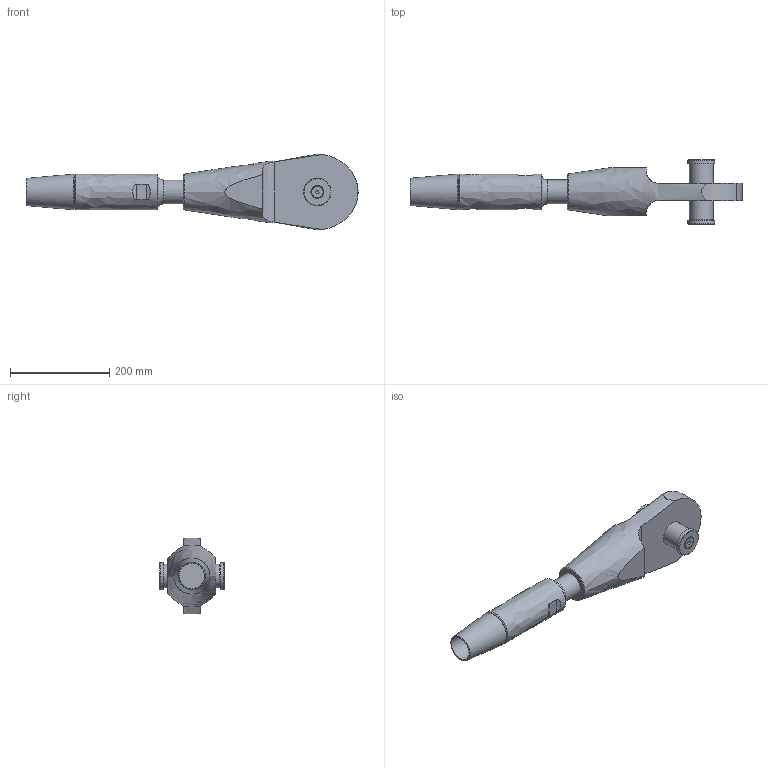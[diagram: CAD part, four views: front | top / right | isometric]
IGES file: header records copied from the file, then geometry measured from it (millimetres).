
Global section: file name: 520-048-OES-ADA; native system: Autodesk Inventor 2020; preprocessor: unknown; author: Administrator; date: 20201007.153925; units: millimetre
Bounding box: 669.46 x 130.44 x 152.7 mm (x, y, z)
Volume: 3326050.3 mm3; surface area: 260200.5 mm2
Topology: 6 solids, 6 shells, 62 faces, 151 edges, 105 vertices
Faces by surface type: bspline 62
